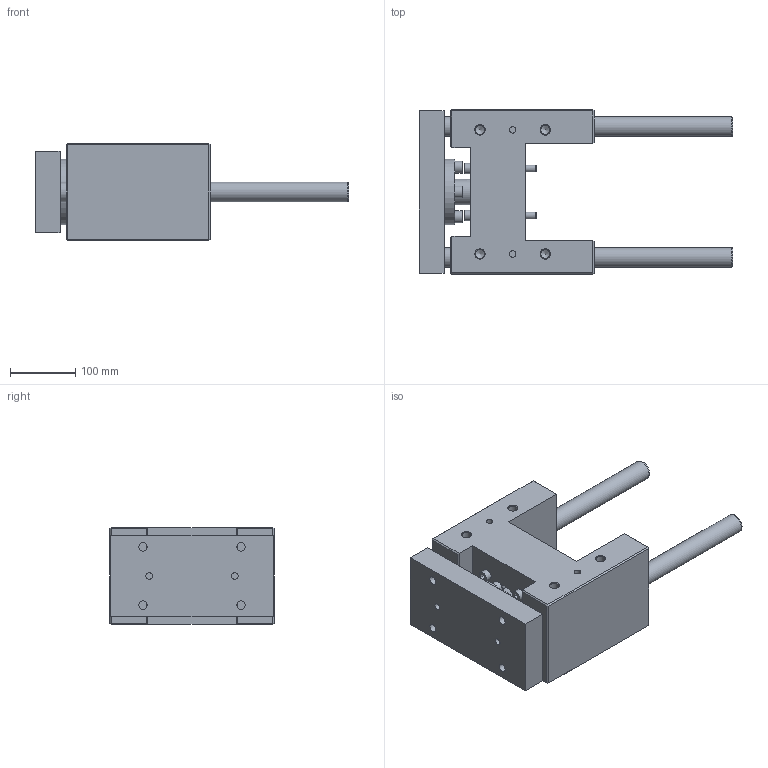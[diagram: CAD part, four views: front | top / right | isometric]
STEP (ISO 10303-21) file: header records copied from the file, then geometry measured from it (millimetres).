
FILE_DESCRIPTION( ( 'STEP AP214' ), '1' );
FILE_NAME( 'U:/Etudes/Top Solid/BIBLIO 3D AVM/TOP/PNEUMATIQUE/GUIDAGES/Type 32 (en H)/R_Renforcée/328R3230.step', '2005-05-27T09:14:30', ( ' ' ), ( ' ' ), 'XStep 1.0', ' ', ' ' );
FILE_SCHEMA( ( 'automotive_design' ) );
Length unit declared in the file: metre
Products named in the file (2): 1; 2
Bounding box: 480 x 252 x 148 mm (x, y, z)
Volume: 6617545.2 mm3; surface area: 545479.1 mm2
Topology: 2 solids, 7 shells, 239 faces, 527 edges, 341 vertices
Faces by surface type: plane 149, cylinder 69, cone 21
Full cylindrical faces by diameter (mm): 10 x12, 10.106 x4, 11 x4, 12 x8, 13 x8, 13.835 x8, 16 x4, 18 x4, 18.376 x2, 20 x4, 30 x4, 39 x1, 42 x1, 45 x1, 57 x1, 60 x1, 65 x1, 100 x1
Entity records: 7933 total; most frequent: CARTESIAN_POINT 1201, DIRECTION 1000, ORIENTED_EDGE 786, EDGE_CURVE 393, EDGE_LOOP 392, AXIS2_PLACEMENT_3D 374, FACE_OUTER_BOUND 308, VERTEX_POINT 303
